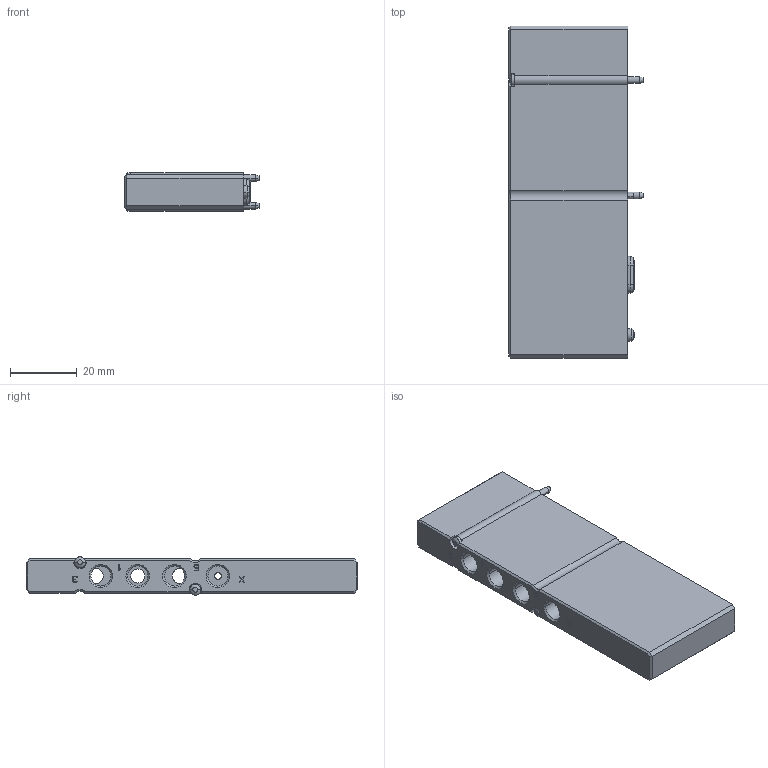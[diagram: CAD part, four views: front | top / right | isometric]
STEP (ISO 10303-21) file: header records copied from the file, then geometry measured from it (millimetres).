
FILE_DESCRIPTION((''),'2;1');
FILE_NAME('H572AZ562822001','2024-07-05T13:57:38',('THD3HC'),(''),'CREO PARAMETRIC BY PTC INC, 2023092','CREO PARAMETRIC BY PTC INC, 2023092','');
FILE_SCHEMA(('CONFIG_CONTROL_DESIGN','SHAPE_APPEARANCE_LAYERS_GROUPS'));
Length unit declared in the file: millimetre
Products named in the file (1): H572AZ562822001
Bounding box: 40.16 x 99.32 x 11.5 mm (x, y, z)
Volume: 34041.5 mm3; surface area: 11756.1 mm2
Topology: 1 solids, 1 shells, 255 faces, 670 edges, 434 vertices
Faces by surface type: plane 181, cylinder 44, cone 22, bspline 4, sphere 4
Entity records: 12207 total; most frequent: CARTESIAN_POINT 1672, ORIENTED_EDGE 1340, DIRECTION 1304, PRESENTATION_STYLE_ASSIGNMENT 856, STYLED_ITEM 704, CURVE_STYLE 670, EDGE_CURVE 670, VECTOR 522
